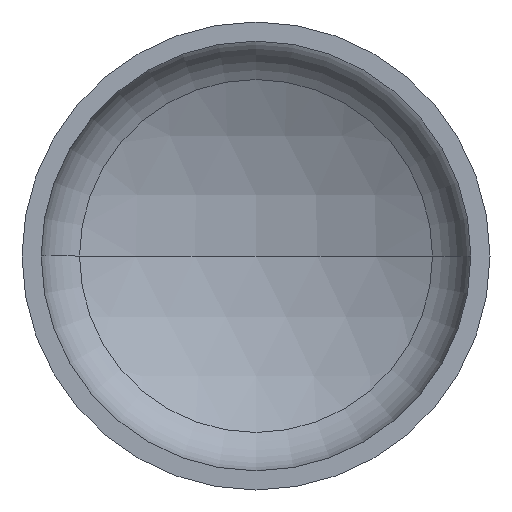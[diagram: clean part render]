
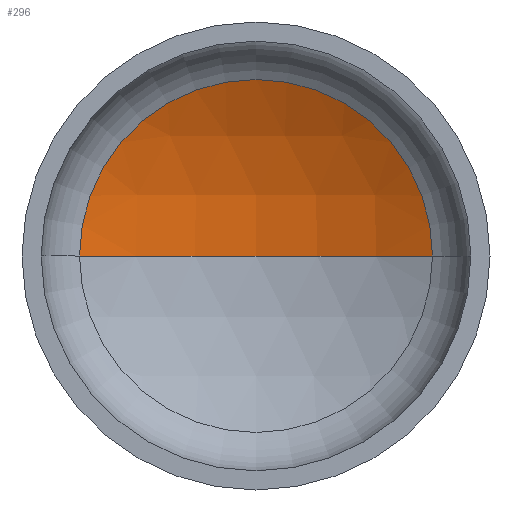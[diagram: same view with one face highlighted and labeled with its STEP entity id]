
A CAD part, front view. The second image highlights one B-rep face of the part: STEP entity #296.
In plain terms, the highlighted spherical face has radius 1600 mm.
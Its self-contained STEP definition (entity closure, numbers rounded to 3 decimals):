
#2 = ORIENTED_EDGE ( 'NONE', *, *, #349, .F. ) ;
#7 = VERTEX_POINT ( 'NONE', #399 ) ;
#19 = EDGE_LOOP ( 'NONE', ( #2, #119, #84 ) ) ;
#20 = AXIS2_PLACEMENT_3D ( 'NONE', #190, #54, #171 ) ;
#23 = AXIS2_PLACEMENT_3D ( 'NONE', #287, #196, #60 ) ;
#34 = AXIS2_PLACEMENT_3D ( 'NONE', #185, #182, #183 ) ;
#54 = DIRECTION ( 'NONE',  ( 0., 0., -1. ) ) ;
#56 = AXIS2_PLACEMENT_3D ( 'NONE', #270, #400, #223 ) ;
#60 = DIRECTION ( 'NONE',  ( 1., 0., 0. ) ) ;
#84 = ORIENTED_EDGE ( 'NONE', *, *, #356, .T. ) ;
#101 = VERTEX_POINT ( 'NONE', #261 ) ;
#119 = ORIENTED_EDGE ( 'NONE', *, *, #361, .T. ) ;
#136 = FACE_OUTER_BOUND ( 'NONE', #19, .T. ) ;
#146 = SPHERICAL_SURFACE ( 'NONE', #56, 1600. ) ;
#171 = DIRECTION ( 'NONE',  ( -1., 0., 0. ) ) ;
#182 = DIRECTION ( 'NONE',  ( 0., 0., 1. ) ) ;
#183 = DIRECTION ( 'NONE',  ( 1., 0., 0. ) ) ;
#185 = CARTESIAN_POINT ( 'NONE',  ( 0., -1037.733, 0. ) ) ;
#190 = CARTESIAN_POINT ( 'NONE',  ( 0., -1037.733, 0. ) ) ;
#196 = DIRECTION ( 'NONE',  ( 0., -1., 0. ) ) ;
#223 = DIRECTION ( 'NONE',  ( -1., 0., 0. ) ) ;
#259 = CIRCLE ( 'NONE', #20, 1600. ) ;
#261 = CARTESIAN_POINT ( 'NONE',  ( 0., 562.267, 0. ) ) ;
#265 = CARTESIAN_POINT ( 'NONE',  ( 754.109, 373.409, 0. ) ) ;
#270 = CARTESIAN_POINT ( 'NONE',  ( 0., -1037.733, 0. ) ) ;
#287 = CARTESIAN_POINT ( 'NONE',  ( 0., 373.409, 0. ) ) ;
#296 = ADVANCED_FACE ( 'NONE', ( #136 ), #146, .F. ) ;
#309 = CIRCLE ( 'NONE', #23, 754.109 ) ;
#313 = VERTEX_POINT ( 'NONE', #265 ) ;
#315 = CIRCLE ( 'NONE', #34, 1600. ) ;
#349 = EDGE_CURVE ( 'NONE', #101, #7, #315, .T. ) ;
#356 = EDGE_CURVE ( 'NONE', #313, #7, #309, .T. ) ;
#361 = EDGE_CURVE ( 'NONE', #101, #313, #259, .T. ) ;
#399 = CARTESIAN_POINT ( 'NONE',  ( -754.109, 373.409, 0. ) ) ;
#400 = DIRECTION ( 'NONE',  ( 0., 0., -1. ) ) ;
